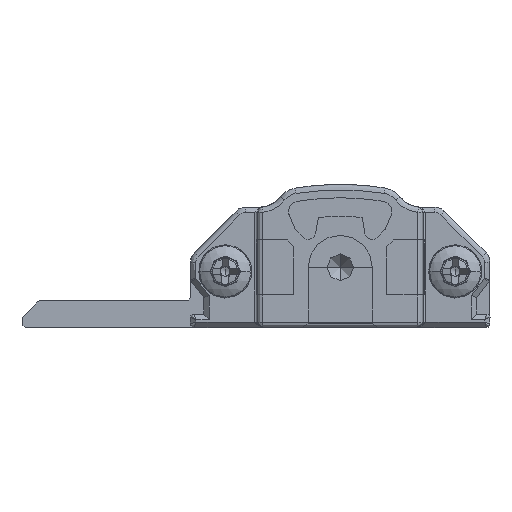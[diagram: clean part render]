
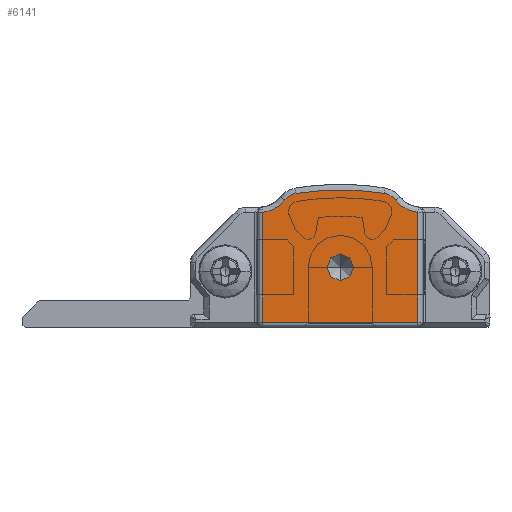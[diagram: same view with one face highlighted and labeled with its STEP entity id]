
A CAD part, front view. The second image highlights one B-rep face of the part: STEP entity #6141.
In plain terms, the highlighted planar face has unit normal (0, -1, 0).
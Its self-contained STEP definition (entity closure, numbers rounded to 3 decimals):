
#68 = ORIENTED_EDGE ( 'NONE', *, *, #15559, .F. ) ;
#153 = ORIENTED_EDGE ( 'NONE', *, *, #10406, .T. ) ;
#705 = EDGE_CURVE ( 'NONE', #18591, #24814, #7498, .T. ) ;
#914 = VERTEX_POINT ( 'NONE', #29627 ) ;
#942 = AXIS2_PLACEMENT_3D ( 'NONE', #7451, #5093, #3505 ) ;
#1744 = CIRCLE ( 'NONE', #8315, 1.3 ) ;
#2281 = CARTESIAN_POINT ( 'NONE',  ( 22.15, -15., 3.606 ) ) ;
#2513 = DIRECTION ( 'NONE',  ( 0., 0., -1. ) ) ;
#2694 = CIRCLE ( 'NONE', #20414, 1. ) ;
#2784 = CARTESIAN_POINT ( 'NONE',  ( 11.2, -15., -10.376 ) ) ;
#3092 = AXIS2_PLACEMENT_3D ( 'NONE', #31387, #12123, #17032 ) ;
#3254 = DIRECTION ( 'NONE',  ( 0., -1., 0. ) ) ;
#3505 = DIRECTION ( 'NONE',  ( 0., 0., -1. ) ) ;
#3613 = VERTEX_POINT ( 'NONE', #12803 ) ;
#4597 = ORIENTED_EDGE ( 'NONE', *, *, #705, .T. ) ;
#4848 = AXIS2_PLACEMENT_3D ( 'NONE', #2784, #3254, #12403 ) ;
#5093 = DIRECTION ( 'NONE',  ( 0., 1., 0. ) ) ;
#5393 = LINE ( 'NONE', #12661, #19737 ) ;
#5853 = VERTEX_POINT ( 'NONE', #16842 ) ;
#6141 = ADVANCED_FACE ( 'NONE', ( #16354, #17264 ), #16500, .T. ) ;
#6195 = EDGE_CURVE ( 'NONE', #24814, #914, #5393, .T. ) ;
#6276 = DIRECTION ( 'NONE',  ( 0., -1., 0. ) ) ;
#6436 = CARTESIAN_POINT ( 'NONE',  ( 17., -15., 0.4 ) ) ;
#6603 = DIRECTION ( 'NONE',  ( 1., 0., 0. ) ) ;
#7451 = CARTESIAN_POINT ( 'NONE',  ( 5.162, -15., 11. ) ) ;
#7498 = CIRCLE ( 'NONE', #942, 2.4 ) ;
#7620 = DIRECTION ( 'NONE',  ( 0., 0., -1. ) ) ;
#8127 = AXIS2_PLACEMENT_3D ( 'NONE', #26034, #19319, #2513 ) ;
#8242 = ORIENTED_EDGE ( 'NONE', *, *, #29616, .T. ) ;
#8315 = AXIS2_PLACEMENT_3D ( 'NONE', #15929, #6276, #18480 ) ;
#8783 = VERTEX_POINT ( 'NONE', #17813 ) ;
#10248 = EDGE_CURVE ( 'NONE', #5853, #18591, #13670, .T. ) ;
#10406 = EDGE_CURVE ( 'NONE', #914, #24702, #25368, .T. ) ;
#11723 = VECTOR ( 'NONE', #25424, 1000. ) ;
#11890 = DIRECTION ( 'NONE',  ( 0., -1., 0. ) ) ;
#12066 = AXIS2_PLACEMENT_3D ( 'NONE', #2281, #11890, #7620 ) ;
#12123 = DIRECTION ( 'NONE',  ( 0., -1., 0. ) ) ;
#12403 = DIRECTION ( 'NONE',  ( 0., 0., -1. ) ) ;
#12661 = CARTESIAN_POINT ( 'NONE',  ( 5.4, -15., 0.4 ) ) ;
#12795 = CIRCLE ( 'NONE', #30572, 1. ) ;
#12803 = CARTESIAN_POINT ( 'NONE',  ( 14.508, -15., 10.034 ) ) ;
#12940 = DIRECTION ( 'NONE',  ( 0., -1., 0. ) ) ;
#13184 = VECTOR ( 'NONE', #6603, 1000. ) ;
#13670 = CIRCLE ( 'NONE', #3092, 1.3 ) ;
#14297 = ORIENTED_EDGE ( 'NONE', *, *, #10248, .T. ) ;
#14791 = EDGE_CURVE ( 'NONE', #24702, #8783, #30156, .T. ) ;
#15419 = EDGE_LOOP ( 'NONE', ( #17842, #24652, #17502, #8242, #14297, #4597, #24629, #153 ) ) ;
#15441 = CIRCLE ( 'NONE', #4848, 20.676 ) ;
#15559 = EDGE_CURVE ( 'NONE', #28027, #26210, #2694, .T. ) ;
#15685 = CARTESIAN_POINT ( 'NONE',  ( 17., -15., 8.612 ) ) ;
#15841 = ORIENTED_EDGE ( 'NONE', *, *, #21021, .F. ) ;
#15929 = CARTESIAN_POINT ( 'NONE',  ( 14.3, -15., 8.75 ) ) ;
#16354 = FACE_OUTER_BOUND ( 'NONE', #15419, .T. ) ;
#16449 = CARTESIAN_POINT ( 'NONE',  ( 5.4, -15., 8.612 ) ) ;
#16500 = PLANE ( 'NONE',  #12066 ) ;
#16823 = EDGE_LOOP ( 'NONE', ( #68, #15841 ) ) ;
#16842 = CARTESIAN_POINT ( 'NONE',  ( 7.892, -15., 10.034 ) ) ;
#16970 = CARTESIAN_POINT ( 'NONE',  ( 7.068, -15., 9.541 ) ) ;
#17032 = DIRECTION ( 'NONE',  ( 0., 0., -1. ) ) ;
#17264 = FACE_BOUND ( 'NONE', #16823, .T. ) ;
#17502 = ORIENTED_EDGE ( 'NONE', *, *, #28748, .T. ) ;
#17693 = CARTESIAN_POINT ( 'NONE',  ( 11.2, -15., 5.5 ) ) ;
#17751 = DIRECTION ( 'NONE',  ( 0., 0., -1. ) ) ;
#17813 = CARTESIAN_POINT ( 'NONE',  ( 17., -15., 8.612 ) ) ;
#17842 = ORIENTED_EDGE ( 'NONE', *, *, #14791, .T. ) ;
#18480 = DIRECTION ( 'NONE',  ( 0., 0., -1. ) ) ;
#18591 = VERTEX_POINT ( 'NONE', #16970 ) ;
#19319 = DIRECTION ( 'NONE',  ( 0., 1., 0. ) ) ;
#19737 = VECTOR ( 'NONE', #17751, 1000. ) ;
#20285 = DIRECTION ( 'NONE',  ( 0., 0., -1. ) ) ;
#20414 = AXIS2_PLACEMENT_3D ( 'NONE', #28053, #23293, #26281 ) ;
#21021 = EDGE_CURVE ( 'NONE', #26210, #28027, #12795, .T. ) ;
#23293 = DIRECTION ( 'NONE',  ( 0., -1., 0. ) ) ;
#24629 = ORIENTED_EDGE ( 'NONE', *, *, #6195, .T. ) ;
#24652 = ORIENTED_EDGE ( 'NONE', *, *, #25136, .T. ) ;
#24702 = VERTEX_POINT ( 'NONE', #29870 ) ;
#24814 = VERTEX_POINT ( 'NONE', #16449 ) ;
#24825 = CARTESIAN_POINT ( 'NONE',  ( 15.332, -15., 9.541 ) ) ;
#24918 = CARTESIAN_POINT ( 'NONE',  ( 11.2, -15., 4.5 ) ) ;
#25136 = EDGE_CURVE ( 'NONE', #8783, #30318, #25907, .T. ) ;
#25368 = LINE ( 'NONE', #6436, #13184 ) ;
#25424 = DIRECTION ( 'NONE',  ( 0., 0., 1. ) ) ;
#25907 = CIRCLE ( 'NONE', #8127, 2.4 ) ;
#26034 = CARTESIAN_POINT ( 'NONE',  ( 17.238, -15., 11. ) ) ;
#26210 = VERTEX_POINT ( 'NONE', #17693 ) ;
#26281 = DIRECTION ( 'NONE',  ( 0., 0., -1. ) ) ;
#28027 = VERTEX_POINT ( 'NONE', #28197 ) ;
#28053 = CARTESIAN_POINT ( 'NONE',  ( 11.2, -15., 4.5 ) ) ;
#28197 = CARTESIAN_POINT ( 'NONE',  ( 11.2, -15., 3.5 ) ) ;
#28748 = EDGE_CURVE ( 'NONE', #30318, #3613, #1744, .T. ) ;
#29616 = EDGE_CURVE ( 'NONE', #3613, #5853, #15441, .T. ) ;
#29627 = CARTESIAN_POINT ( 'NONE',  ( 5.4, -15., 0.4 ) ) ;
#29870 = CARTESIAN_POINT ( 'NONE',  ( 17., -15., 0.4 ) ) ;
#30156 = LINE ( 'NONE', #15685, #11723 ) ;
#30318 = VERTEX_POINT ( 'NONE', #24825 ) ;
#30572 = AXIS2_PLACEMENT_3D ( 'NONE', #24918, #12940, #20285 ) ;
#31387 = CARTESIAN_POINT ( 'NONE',  ( 8.1, -15., 8.75 ) ) ;
